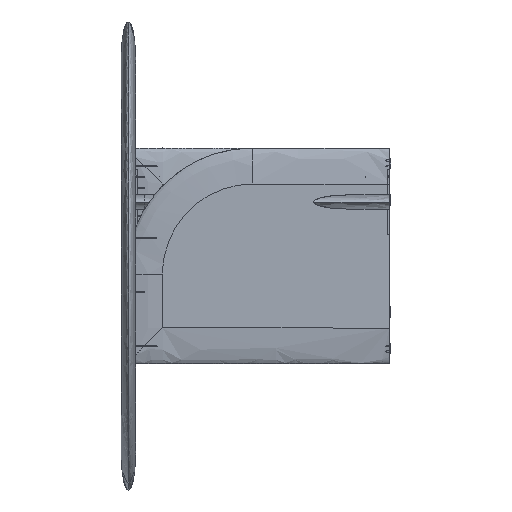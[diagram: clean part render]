
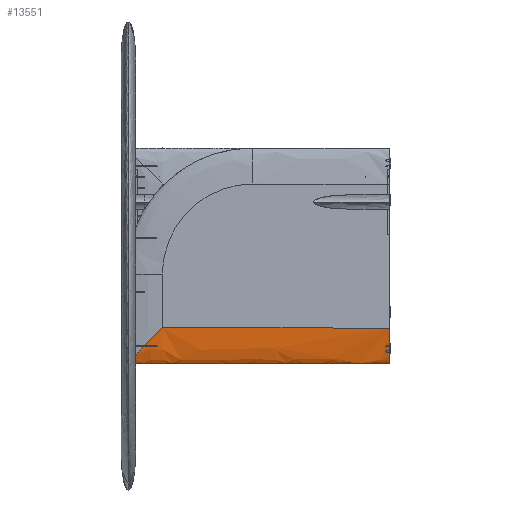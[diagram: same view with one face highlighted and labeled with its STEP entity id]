
A CAD part, left-side view. The second image highlights one B-rep face of the part: STEP entity #13551.
In plain terms, the highlighted free-form (B-spline) face has degree [3, 1] with [4, 2] control points.
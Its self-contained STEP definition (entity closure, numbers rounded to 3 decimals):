
#56 = CARTESIAN_POINT ( 'NONE',  ( 235., 630., -350. ) ) ;
#206 = CARTESIAN_POINT ( 'NONE',  ( 234.041, 661.335, -381.335 ) ) ;
#485 = CARTESIAN_POINT ( 'NONE',  ( 230.622, 692.58, -412.58 ) ) ;
#541 = EDGE_CURVE ( 'NONE', #680, #6730, #2406, .T. ) ;
#579 = CARTESIAN_POINT ( 'NONE',  ( 228.93, 701.907, -421.907 ) ) ;
#619 = CARTESIAN_POINT ( 'NONE',  ( 197.677, 680.101, -400.101 ) ) ;
#680 = VERTEX_POINT ( 'NONE', #10038 ) ;
#714 = CARTESIAN_POINT ( 'NONE',  ( 195.597, 655.071, -375.071 ) ) ;
#1008 = CARTESIAN_POINT ( 'NONE',  ( 198.902, 689.464, -409.464 ) ) ;
#1432 = FACE_OUTER_BOUND ( 'NONE', #10247, .T. ) ;
#1682 = CARTESIAN_POINT ( 'NONE',  ( 233.279, 670.722, -390.722 ) ) ;
#1962 = CARTESIAN_POINT ( 'NONE',  ( 234.883, 642.537, -362.537 ) ) ;
#2286 = CARTESIAN_POINT ( 'NONE',  ( 195.959, 661.335, -381.335 ) ) ;
#2379 = CARTESIAN_POINT ( 'NONE',  ( 195.059, 637.836, -357.836 ) ) ;
#2406 = LINE ( 'NONE', #11218, #4980 ) ;
#3154 = CARTESIAN_POINT ( 'NONE',  ( 228.229, 705., -425. ) ) ;
#3347 = CARTESIAN_POINT ( 'NONE',  ( 232.323, 680.101, -400.101 ) ) ;
#3373 = CARTESIAN_POINT ( 'NONE',  ( 201.771, 705., -425. ) ) ;
#3374 = ORIENTED_EDGE ( 'NONE', *, *, #11945, .F. ) ;
#3563 = ORIENTED_EDGE ( 'NONE', *, *, #14871, .T. ) ;
#3661 = CARTESIAN_POINT ( 'NONE',  ( 235., 0., -350. ) ) ;
#3765 = CARTESIAN_POINT ( 'NONE',  ( 199.378, 692.58, -412.58 ) ) ;
#4052 = CARTESIAN_POINT ( 'NONE',  ( 197.011, 673.85, -393.85 ) ) ;
#4389 = VERTEX_POINT ( 'NONE', #3661 ) ;
#4980 = VECTOR ( 'NONE', #12413, 1000. ) ;
#5005 = CARTESIAN_POINT ( 'NONE',  ( 229.537, 698.802, -418.802 ) ) ;
#5169 = CARTESIAN_POINT ( 'NONE',  ( 195., 0., -550. ) ) ;
#5230 = CARTESIAN_POINT ( 'NONE',  ( 198.051, 683.225, -403.225 ) ) ;
#5588 = ORIENTED_EDGE ( 'NONE', *, *, #14785, .F. ) ;
#5900 =( BOUNDED_CURVE ( )  B_SPLINE_CURVE ( 3, ( #3373, #11355, #18704, #15776 ),
 .UNSPECIFIED., .F., .T. ) 
 B_SPLINE_CURVE_WITH_KNOTS ( ( 4, 4 ),
 ( 2.419, 3.864 ),
 .UNSPECIFIED. ) 
 CURVE ( )  GEOMETRIC_REPRESENTATION_ITEM ( )  RATIONAL_B_SPLINE_CURVE ( ( 1., 0.833, 0.833, 1. ) ) 
 REPRESENTATION_ITEM ( '' )  );
#5939 = CARTESIAN_POINT ( 'NONE',  ( 195., 0., -550. ) ) ;
#6240 = CARTESIAN_POINT ( 'NONE',  ( 195., 0., -350. ) ) ;
#6730 = VERTEX_POINT ( 'NONE', #6240 ) ;
#6889 = CARTESIAN_POINT ( 'NONE',  ( 196.721, 670.723, -390.723 ) ) ;
#7715 = CARTESIAN_POINT ( 'NONE',  ( 195., 705., -550. ) ) ;
#7953 = CARTESIAN_POINT ( 'NONE',  ( 231.949, 683.225, -403.225 ) ) ;
#8041 = CARTESIAN_POINT ( 'NONE',  ( 235., 630., -350. ) ) ;
#8457 = CARTESIAN_POINT ( 'NONE',  ( 195.015, 633.919, -353.919 ) ) ;
#8555 = CARTESIAN_POINT ( 'NONE',  ( 201.771, 705., -425. ) ) ;
#8813 = VERTEX_POINT ( 'NONE', #16548 ) ;
#9018 = ORIENTED_EDGE ( 'NONE', *, *, #11496, .F. ) ;
#9502 = CARTESIAN_POINT ( 'NONE',  ( 232.989, 673.85, -393.85 ) ) ;
#9640 = CARTESIAN_POINT ( 'NONE',  ( 195.237, 645.671, -365.671 ) ) ;
#9826 = CARTESIAN_POINT ( 'NONE',  ( 195.006, 632.743, -352.743 ) ) ;
#9924 = LINE ( 'NONE', #11873, #17431 ) ;
#10019 = CARTESIAN_POINT ( 'NONE',  ( 200.463, 698.802, -418.802 ) ) ;
#10038 = CARTESIAN_POINT ( 'NONE',  ( 195., 630., -350. ) ) ;
#10247 = EDGE_LOOP ( 'NONE', ( #5588, #11678, #9018, #3563, #3374, #11026 ) ) ;
#10436 = CARTESIAN_POINT ( 'NONE',  ( 235., 0., -350. ) ) ;
#11026 = ORIENTED_EDGE ( 'NONE', *, *, #541, .F. ) ;
#11043 = CARTESIAN_POINT ( 'NONE',  ( 235., 0., -350. ) ) ;
#11197 = CARTESIAN_POINT ( 'NONE',  ( 195.002, 631.568, -351.568 ) ) ;
#11218 = CARTESIAN_POINT ( 'NONE',  ( 195., 730.6, -350. ) ) ;
#11294 = CARTESIAN_POINT ( 'NONE',  ( 195., 630.784, -350.784 ) ) ;
#11355 = CARTESIAN_POINT ( 'NONE',  ( 209.708, 705., -460. ) ) ;
#11484 = CARTESIAN_POINT ( 'NONE',  ( 195.148, 642.537, -362.537 ) ) ;
#11496 = EDGE_CURVE ( 'NONE', #13466, #8813, #17735, .T. ) ;
#11678 = ORIENTED_EDGE ( 'NONE', *, *, #14132, .T. ) ;
#11873 = CARTESIAN_POINT ( 'NONE',  ( 235., 730.6, -350. ) ) ;
#11945 = EDGE_CURVE ( 'NONE', #6730, #4389, #15411, .T. ) ;
#12018 =( BOUNDED_SURFACE ( )  B_SPLINE_SURFACE ( 3, 1, ( 
 ( #13608, #15066 ),
 ( #7715, #5939 ),
 ( #17893, #12110 ),
 ( #15168, #10436 ) ),
 .UNSPECIFIED., .F., .F., .T. ) 
 B_SPLINE_SURFACE_WITH_KNOTS ( ( 4, 4 ),
 ( 2, 2 ),
 ( 0., 1. ),
 ( 0., 1. ),
 .UNSPECIFIED. ) 
 GEOMETRIC_REPRESENTATION_ITEM ( )  RATIONAL_B_SPLINE_SURFACE ( (
 ( 1., 1.),
 ( 0.333, 0.333),
 ( 0.333, 0.333),
 ( 1., 1.) ) ) 
 REPRESENTATION_ITEM ( '' )  SURFACE ( )  );
#12110 = CARTESIAN_POINT ( 'NONE',  ( 235., 0., -550. ) ) ;
#12413 = DIRECTION ( 'NONE',  ( 0., -1., 0. ) ) ;
#12702 = CARTESIAN_POINT ( 'NONE',  ( 195., 0., -350. ) ) ;
#13466 = VERTEX_POINT ( 'NONE', #56 ) ;
#13551 = ADVANCED_FACE ( 'NONE', ( #1432 ), #12018, .T. ) ;
#13608 = CARTESIAN_POINT ( 'NONE',  ( 195., 705., -350. ) ) ;
#13940 = CARTESIAN_POINT ( 'NONE',  ( 231.098, 689.464, -409.464 ) ) ;
#14027 = CARTESIAN_POINT ( 'NONE',  ( 234.403, 655.071, -375.071 ) ) ;
#14132 = EDGE_CURVE ( 'NONE', #16508, #8813, #5900, .T. ) ;
#14748 = DIRECTION ( 'NONE',  ( 0., -1., 0. ) ) ;
#14785 = EDGE_CURVE ( 'NONE', #16508, #680, #18109, .T. ) ;
#14871 = EDGE_CURVE ( 'NONE', #13466, #4389, #9924, .T. ) ;
#15066 = CARTESIAN_POINT ( 'NONE',  ( 195., 0., -350. ) ) ;
#15168 = CARTESIAN_POINT ( 'NONE',  ( 235., 705., -350. ) ) ;
#15401 = CARTESIAN_POINT ( 'NONE',  ( 235., 636.269, -356.269 ) ) ;
#15411 =( BOUNDED_CURVE ( )  B_SPLINE_CURVE ( 3, ( #12702, #5169, #18492, #11043 ),
 .UNSPECIFIED., .F., .F. ) 
 B_SPLINE_CURVE_WITH_KNOTS ( ( 4, 4 ),
 ( 1.571, 4.712 ),
 .UNSPECIFIED. ) 
 CURVE ( )  GEOMETRIC_REPRESENTATION_ITEM ( )  RATIONAL_B_SPLINE_CURVE ( ( 1., 0.333, 0.333, 1. ) ) 
 REPRESENTATION_ITEM ( '' )  );
#15723 = CARTESIAN_POINT ( 'NONE',  ( 195.037, 636.269, -356.269 ) ) ;
#15776 = CARTESIAN_POINT ( 'NONE',  ( 228.229, 705., -425. ) ) ;
#16508 = VERTEX_POINT ( 'NONE', #17547 ) ;
#16548 = CARTESIAN_POINT ( 'NONE',  ( 228.229, 705., -425. ) ) ;
#17431 = VECTOR ( 'NONE', #14748, 1000. ) ;
#17547 = CARTESIAN_POINT ( 'NONE',  ( 201.771, 705., -425. ) ) ;
#17735 = B_SPLINE_CURVE_WITH_KNOTS ( 'NONE', 3,
 ( #8041, #15401, #1962, #14027, #206, #1682, #9502, #3347, #7953, #13940, #485, #5005, #579, #3154 ),
 .UNSPECIFIED., .F., .F.,
 ( 4, 2, 2, 2, 2, 2, 4 ),
 ( 0., 0.026, 0.053, 0.066, 0.08, 0.093, 0.106 ),
 .UNSPECIFIED. ) ;
#17893 = CARTESIAN_POINT ( 'NONE',  ( 235., 705., -550. ) ) ;
#18109 = B_SPLINE_CURVE_WITH_KNOTS ( 'NONE', 3,
 ( #8555, #18738, #10019, #3765, #1008, #5230, #619, #4052, #6889, #2286, #714, #9640, #11484, #2379, #15723, #8457, #9826, #11197, #11294, #18647, #18560 ),
 .UNSPECIFIED., .F., .F.,
 ( 4, 2, 2, 2, 2, 2, 2, 2, 1, 2, 4 ),
 ( 0.039, 0.053, 0.066, 0.079, 0.093, 0.119, 0.133, 0.139, 0.143, 0.144, 0.146 ),
 .UNSPECIFIED. ) ;
#18492 = CARTESIAN_POINT ( 'NONE',  ( 235., 0., -550. ) ) ;
#18560 = CARTESIAN_POINT ( 'NONE',  ( 195., 630., -350. ) ) ;
#18647 = CARTESIAN_POINT ( 'NONE',  ( 195., 630.394, -350.394 ) ) ;
#18704 = CARTESIAN_POINT ( 'NONE',  ( 220.292, 705., -460. ) ) ;
#18738 = CARTESIAN_POINT ( 'NONE',  ( 201.07, 701.907, -421.907 ) ) ;
